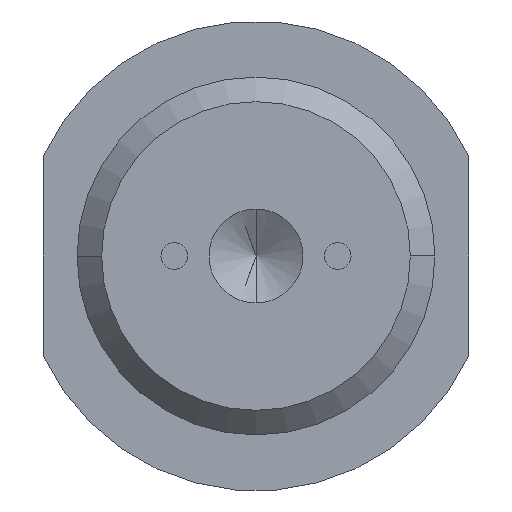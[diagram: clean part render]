
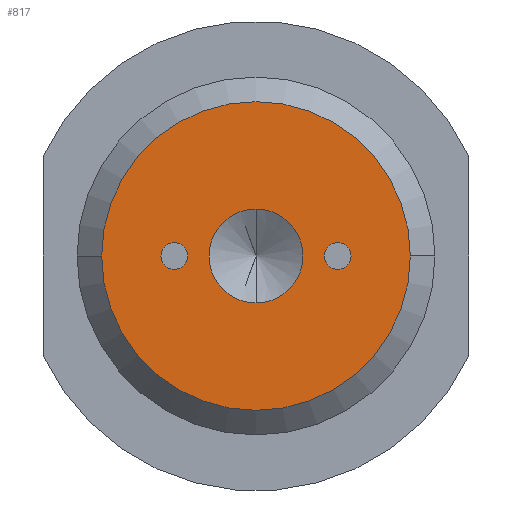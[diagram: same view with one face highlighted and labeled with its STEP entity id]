
A CAD part, front view. The second image highlights one B-rep face of the part: STEP entity #817.
In plain terms, the highlighted planar face has unit normal (0, -1, 0).
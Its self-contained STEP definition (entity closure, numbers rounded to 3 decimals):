
#2 = CIRCLE ( 'NONE', #82, 6.9 ) ;
#17 = VERTEX_POINT ( 'NONE', #651 ) ;
#26 = CIRCLE ( 'NONE', #438, 0.6 ) ;
#37 = DIRECTION ( 'NONE',  ( 0., -1., 0. ) ) ;
#39 = EDGE_CURVE ( 'NONE', #228, #17, #182, .T. ) ;
#74 = CIRCLE ( 'NONE', #287, 0.6 ) ;
#76 = DIRECTION ( 'NONE',  ( 0., -1., 0. ) ) ;
#79 = DIRECTION ( 'NONE',  ( 1., 0., 0. ) ) ;
#82 = AXIS2_PLACEMENT_3D ( 'NONE', #640, #280, #413 ) ;
#83 = CIRCLE ( 'NONE', #178, 2.1 ) ;
#91 = AXIS2_PLACEMENT_3D ( 'NONE', #642, #213, #486 ) ;
#99 = CIRCLE ( 'NONE', #91, 6.9 ) ;
#134 = DIRECTION ( 'NONE',  ( 1., 0., 0. ) ) ;
#178 = AXIS2_PLACEMENT_3D ( 'NONE', #550, #76, #710 ) ;
#182 = CIRCLE ( 'NONE', #521, 0.6 ) ;
#186 = VERTEX_POINT ( 'NONE', #708 ) ;
#193 = DIRECTION ( 'NONE',  ( 0., -1., 0. ) ) ;
#195 = DIRECTION ( 'NONE',  ( 0., 0., -1. ) ) ;
#213 = DIRECTION ( 'NONE',  ( 0., 1., 0. ) ) ;
#216 = VERTEX_POINT ( 'NONE', #320 ) ;
#222 = DIRECTION ( 'NONE',  ( 1., 0., 0. ) ) ;
#228 = VERTEX_POINT ( 'NONE', #706 ) ;
#267 = VERTEX_POINT ( 'NONE', #664 ) ;
#270 = EDGE_LOOP ( 'NONE', ( #312, #298 ) ) ;
#280 = DIRECTION ( 'NONE',  ( 0., 1., 0. ) ) ;
#287 = AXIS2_PLACEMENT_3D ( 'NONE', #500, #504, #79 ) ;
#292 = DIRECTION ( 'NONE',  ( 0., -1., 0. ) ) ;
#298 = ORIENTED_EDGE ( 'NONE', *, *, #39, .F. ) ;
#302 = EDGE_LOOP ( 'NONE', ( #775, #453 ) ) ;
#312 = ORIENTED_EDGE ( 'NONE', *, *, #467, .F. ) ;
#313 = EDGE_CURVE ( 'NONE', #681, #186, #99, .T. ) ;
#317 = AXIS2_PLACEMENT_3D ( 'NONE', #429, #37, #195 ) ;
#320 = CARTESIAN_POINT ( 'NONE',  ( -3.05, 0., 0. ) ) ;
#323 = EDGE_LOOP ( 'NONE', ( #410, #780 ) ) ;
#352 = CARTESIAN_POINT ( 'NONE',  ( 0., 0., 0. ) ) ;
#381 = DIRECTION ( 'NONE',  ( 0., -1., 0. ) ) ;
#385 = CIRCLE ( 'NONE', #317, 2.1 ) ;
#406 = EDGE_CURVE ( 'NONE', #267, #441, #83, .T. ) ;
#410 = ORIENTED_EDGE ( 'NONE', *, *, #417, .F. ) ;
#413 = DIRECTION ( 'NONE',  ( -1., 0., 0. ) ) ;
#417 = EDGE_CURVE ( 'NONE', #216, #569, #74, .T. ) ;
#429 = CARTESIAN_POINT ( 'NONE',  ( 0., 0., 0. ) ) ;
#436 = CARTESIAN_POINT ( 'NONE',  ( 3.65, 0., 0. ) ) ;
#438 = AXIS2_PLACEMENT_3D ( 'NONE', #436, #381, #797 ) ;
#441 = VERTEX_POINT ( 'NONE', #618 ) ;
#453 = ORIENTED_EDGE ( 'NONE', *, *, #406, .F. ) ;
#463 = CIRCLE ( 'NONE', #636, 0.6 ) ;
#467 = EDGE_CURVE ( 'NONE', #17, #228, #26, .T. ) ;
#475 = CARTESIAN_POINT ( 'NONE',  ( -4.25, 0., 0. ) ) ;
#486 = DIRECTION ( 'NONE',  ( -1., 0., 0. ) ) ;
#495 = CARTESIAN_POINT ( 'NONE',  ( -3.65, 0., 0. ) ) ;
#500 = CARTESIAN_POINT ( 'NONE',  ( -3.65, 0., 0. ) ) ;
#501 = EDGE_CURVE ( 'NONE', #186, #681, #2, .T. ) ;
#504 = DIRECTION ( 'NONE',  ( 0., -1., 0. ) ) ;
#521 = AXIS2_PLACEMENT_3D ( 'NONE', #619, #292, #134 ) ;
#530 = FACE_BOUND ( 'NONE', #270, .T. ) ;
#550 = CARTESIAN_POINT ( 'NONE',  ( 0., 0., 0. ) ) ;
#554 = FACE_BOUND ( 'NONE', #323, .T. ) ;
#569 = VERTEX_POINT ( 'NONE', #475 ) ;
#586 = FACE_BOUND ( 'NONE', #302, .T. ) ;
#605 = DIRECTION ( 'NONE',  ( 0., -1., 0. ) ) ;
#615 = EDGE_CURVE ( 'NONE', #441, #267, #385, .T. ) ;
#617 = ORIENTED_EDGE ( 'NONE', *, *, #313, .F. ) ;
#618 = CARTESIAN_POINT ( 'NONE',  ( 0., 0., -2.1 ) ) ;
#619 = CARTESIAN_POINT ( 'NONE',  ( 3.65, 0., 0. ) ) ;
#631 = DIRECTION ( 'NONE',  ( 1., 0., 0. ) ) ;
#636 = AXIS2_PLACEMENT_3D ( 'NONE', #495, #605, #222 ) ;
#640 = CARTESIAN_POINT ( 'NONE',  ( 0., 0., 0. ) ) ;
#642 = CARTESIAN_POINT ( 'NONE',  ( 0., 0., 0. ) ) ;
#651 = CARTESIAN_POINT ( 'NONE',  ( 4.25, 0., 0. ) ) ;
#661 = FACE_OUTER_BOUND ( 'NONE', #800, .T. ) ;
#664 = CARTESIAN_POINT ( 'NONE',  ( 0., 0., 2.1 ) ) ;
#665 = PLANE ( 'NONE',  #701 ) ;
#681 = VERTEX_POINT ( 'NONE', #690 ) ;
#690 = CARTESIAN_POINT ( 'NONE',  ( 6.9, 0., 0. ) ) ;
#701 = AXIS2_PLACEMENT_3D ( 'NONE', #352, #193, #631 ) ;
#706 = CARTESIAN_POINT ( 'NONE',  ( 3.05, 0., 0. ) ) ;
#708 = CARTESIAN_POINT ( 'NONE',  ( -6.9, 0., 0. ) ) ;
#710 = DIRECTION ( 'NONE',  ( 0., 0., -1. ) ) ;
#712 = EDGE_CURVE ( 'NONE', #569, #216, #463, .T. ) ;
#775 = ORIENTED_EDGE ( 'NONE', *, *, #615, .F. ) ;
#780 = ORIENTED_EDGE ( 'NONE', *, *, #712, .F. ) ;
#796 = ORIENTED_EDGE ( 'NONE', *, *, #501, .F. ) ;
#797 = DIRECTION ( 'NONE',  ( 1., 0., 0. ) ) ;
#800 = EDGE_LOOP ( 'NONE', ( #796, #617 ) ) ;
#817 = ADVANCED_FACE ( 'NONE', ( #530, #554, #586, #661 ), #665, .T. ) ;
